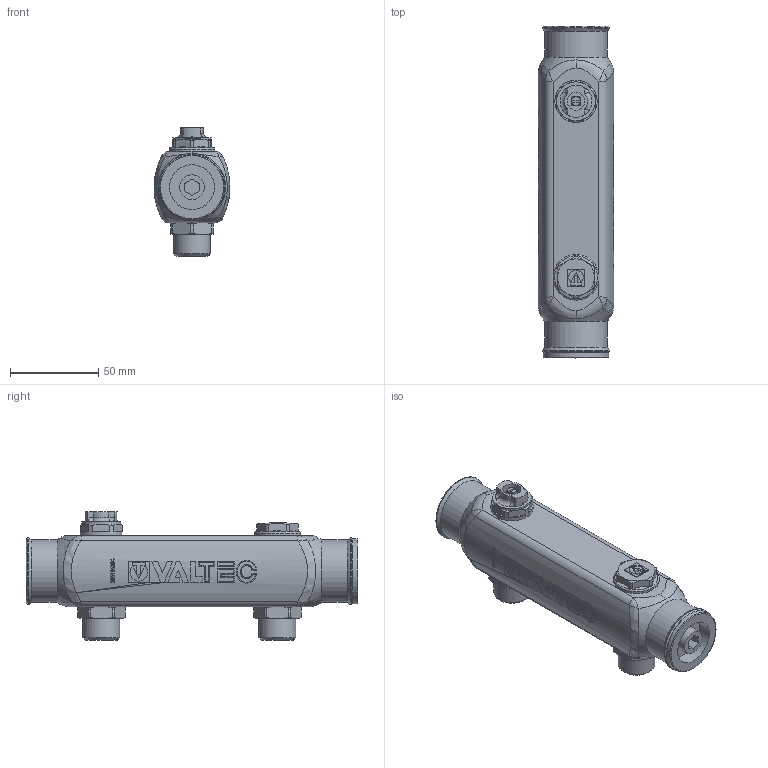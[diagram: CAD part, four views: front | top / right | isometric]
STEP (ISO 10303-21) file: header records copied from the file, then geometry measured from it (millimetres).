
FILE_DESCRIPTION(('STEP AP203'), '1');
FILE_NAME('覆.622621.022.000 捘 - VTc.510.SS.060402', '2024-08-21T10:26:36', ('Boss'), (''), 'C3D Converter', 'C3D Toolkit', '');
FILE_SCHEMA(('CONFIG_CONTROL_DESIGN'));
Length unit declared in the file: millimetre
Products named in the file (1): ВР.622621.022.000 СБ
Bounding box: 43 x 188.5 x 73 mm (x, y, z)
Volume: 71447.6 mm3; surface area: 61018.5 mm2
Topology: 1 solids, 4 shells, 843 faces, 2172 edges, 1400 vertices
Faces by surface type: plane 348, extrusion 230, cylinder 137, cone 67, bspline 52, torus 9
Full cylindrical faces by diameter (mm): 1 x1, 5 x1, 5.3 x1, 10.2 x1, 12 x2, 13 x1, 14 x1, 20.955 x5, 22 x5, 24 x1, 25.5 x1, 26 x1, 28 x1, 30.292 x2, 35.5 x2, 37 x1
Entity records: 52121 total; most frequent: CARTESIAN_POINT 33327, ORIENTED_EDGE 4198, DIRECTION 3061, EDGE_CURVE 2099, VERTEX_POINT 1404, VECTOR 1163, EDGE_LOOP 974, AXIS2_PLACEMENT_3D 949
